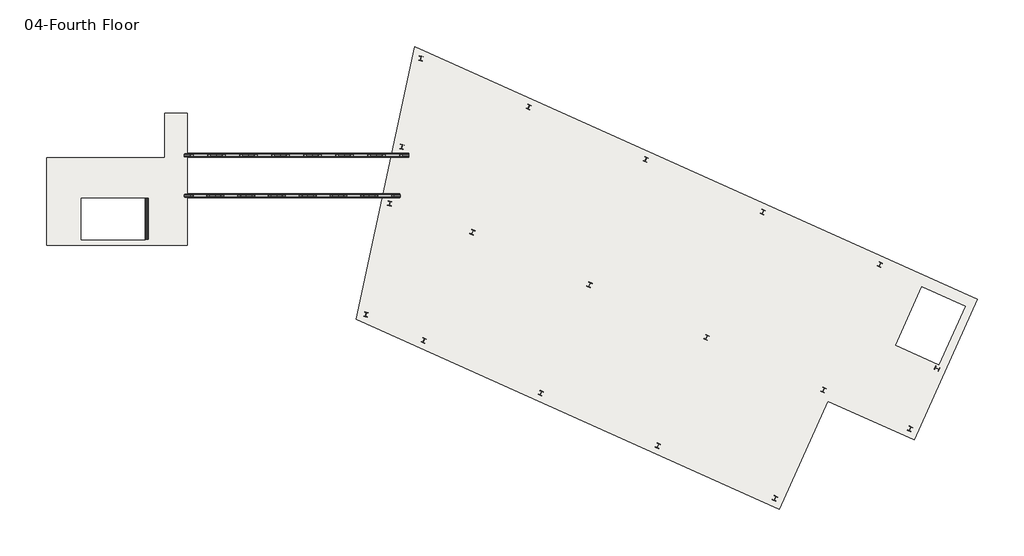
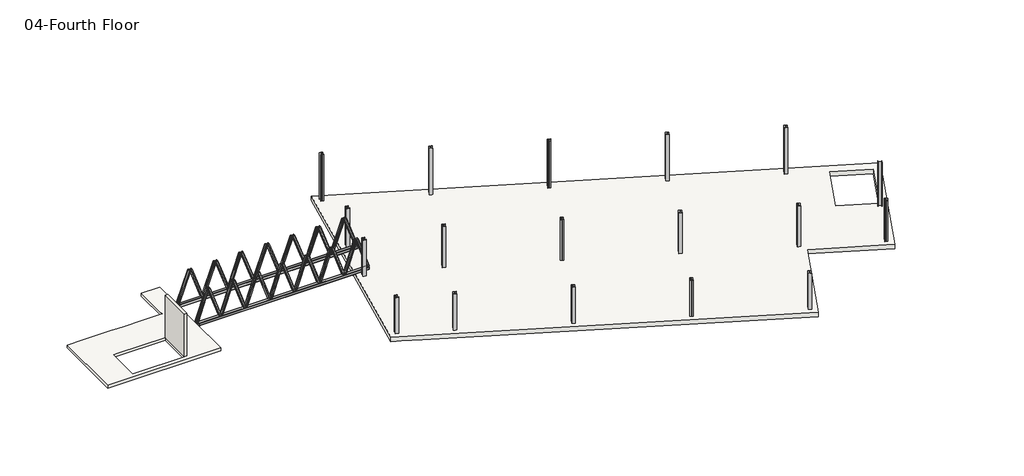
# One storey: 30 beams, 18 columns, 2 slabs, 1 wall.
"""IFC4 building model written with IfcOpenShell, lengths in millimetres."""

from ifc_helpers import new_model, si_unit, frame, origin, place, context, project, spatial, polyline, outline, extrude, faceted_brep, transform, mapped, element, save
from components import hss_square_hss6x6x1_2_76161288, hss_square_hss6x6x1_2_22740da5, hss_square_hss6x6x1_2_1b88db30, hss_square_hss6x6x1_2_b0b0a80a, hss_square_hss6x6x1_2_a7cad767, hss_square_hss6x6x1_2_71d29ca0, hss_square_hss8x8x3_8_a07c3f43, hss_square_hss8x8x3_8_c1e108ad, w_shapes_column_w10x33_a9fcfa0c, w_shapes_column_w10x33_dd564183, w_shapes_column_w10x33_143f3a9e, w_shapes_column_w10x33_68d9858e, w_shapes_column_w10x33_19826069, w_shapes_column_w10x33_0502d7ff, w_shapes_column_w10x33_47bedb91, w_shapes_column_w10x33_6cbc947e

model = new_model("IFC4")

# Units and contexts
model_context = context("Model", 3, world=origin())
ifc_project = project(units=[si_unit("LENGTHUNIT", "METRE", prefix="MILLI")], contexts=[model_context])

# Site, building, storey
site = spatial("IfcSite", under=ifc_project)
building = spatial("IfcBuilding", under=site)
storey = spatial("IfcBuildingStorey", under=building, Name="04-Fourth Floor", Elevation=13411.2)

# Beams
placement = place(None, origin())
hss_square_hss6x6x1_2_shape = hss_square_hss6x6x1_2_76161288(model_context)
element("IfcBeam", 1, ObjectType="HSS Square : HSS6X6X1/2", at=placement, inside=storey, context=model_context, shape_type="MappedRepresentation", body=[
    mapped(hss_square_hss6x6x1_2_shape, transform((18517.5886483, -7505.7, 14732.0), x_axis=(0.32576532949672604, 0.0, 0.9454506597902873), y_axis=(0.0, -1.0, 0.0), z_axis=(0.9454506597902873, 0.0, -0.32576532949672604))),
])
hss_square_hss6x6x1_2_2_shape = hss_square_hss6x6x1_2_22740da5(model_context)
element("IfcBeam", 2, ObjectType="HSS Square : HSS6X6X1/2", at=placement, inside=storey, context=model_context, shape_type="MappedRepresentation", body=[
    mapped(hss_square_hss6x6x1_2_2_shape, transform((19357.765945, -7505.7, 14732.0), x_axis=(0.32576532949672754, 0.0, -0.9454506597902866), y_axis=(0.0, -1.0, 0.0), z_axis=(-0.9454506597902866, 0.0, -0.32576532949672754))),
])
element("IfcBeam", 3, ObjectType="HSS Square : HSS6X6X1/2", at=placement, inside=storey, context=model_context, shape_type="MappedRepresentation", body=[
    mapped(hss_square_hss6x6x1_2_2_shape, transform((20197.9432416, -7505.7, 14732.0), x_axis=(0.3257653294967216, 0.0, 0.9454506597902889), y_axis=(0.0, -1.0, 0.0), z_axis=(0.9454506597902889, 0.0, -0.3257653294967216))),
])
element("IfcBeam", 4, ObjectType="HSS Square : HSS6X6X1/2", at=placement, inside=storey, context=model_context, shape_type="MappedRepresentation", body=[
    mapped(hss_square_hss6x6x1_2_2_shape, transform((28599.7162079, -7505.7, 14732.0), x_axis=(0.3257653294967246, 0.0, 0.9454506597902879), y_axis=(0.0, -1.0, 0.0), z_axis=(0.9454506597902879, 0.0, -0.3257653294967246))),
])
element("IfcBeam", 5, ObjectType="HSS Square : HSS6X6X1/2", at=placement, inside=storey, context=model_context, shape_type="MappedRepresentation", body=[
    mapped(hss_square_hss6x6x1_2_2_shape, transform((27759.5389113, -7505.7, 14732.0), x_axis=(0.32576532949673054, 0.0, -0.9454506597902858), y_axis=(0.0, -1.0, 0.0), z_axis=(-0.9454506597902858, 0.0, -0.32576532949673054))),
])
element("IfcBeam", 6, ObjectType="HSS Square : HSS6X6X1/2", at=placement, inside=storey, context=model_context, shape_type="MappedRepresentation", body=[
    mapped(hss_square_hss6x6x1_2_2_shape, transform((26919.3616147, -7505.7, 14732.0), x_axis=(0.32576532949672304, 0.0, 0.9454506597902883), y_axis=(0.0, -1.0, 0.0), z_axis=(0.9454506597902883, 0.0, -0.32576532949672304))),
])
element("IfcBeam", 7, ObjectType="HSS Square : HSS6X6X1/2", at=placement, inside=storey, context=model_context, shape_type="MappedRepresentation", body=[
    mapped(hss_square_hss6x6x1_2_2_shape, transform((26079.184318, -7505.7, 14732.0), x_axis=(0.32576532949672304, 0.0, -0.9454506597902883), y_axis=(0.0, -1.0, 0.0), z_axis=(-0.9454506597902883, 0.0, -0.32576532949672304))),
])
element("IfcBeam", 8, ObjectType="HSS Square : HSS6X6X1/2", at=placement, inside=storey, context=model_context, shape_type="MappedRepresentation", body=[
    mapped(hss_square_hss6x6x1_2_2_shape, transform((21038.1205382, -7505.7, 14732.0), x_axis=(0.3257653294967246, 0.0, -0.9454506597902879), y_axis=(0.0, -1.0, 0.0), z_axis=(-0.9454506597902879, 0.0, -0.3257653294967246))),
])
element("IfcBeam", 9, ObjectType="HSS Square : HSS6X6X1/2", at=placement, inside=storey, context=model_context, shape_type="MappedRepresentation", body=[
    mapped(hss_square_hss6x6x1_2_2_shape, transform((21878.2978349, -7505.7, 14732.0), x_axis=(0.32576532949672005, 0.0, 0.9454506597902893), y_axis=(0.0, -1.0, 0.0), z_axis=(0.9454506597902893, 0.0, -0.32576532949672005))),
])
element("IfcBeam", 10, ObjectType="HSS Square : HSS6X6X1/2", at=placement, inside=storey, context=model_context, shape_type="MappedRepresentation", body=[
    mapped(hss_square_hss6x6x1_2_2_shape, transform((22718.4751315, -7505.7, 14732.0), x_axis=(0.3257653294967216, 0.0, -0.9454506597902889), y_axis=(0.0, -1.0, 0.0), z_axis=(-0.9454506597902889, 0.0, -0.3257653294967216))),
])
element("IfcBeam", 11, ObjectType="HSS Square : HSS6X6X1/2", at=placement, inside=storey, context=model_context, shape_type="MappedRepresentation", body=[
    mapped(hss_square_hss6x6x1_2_2_shape, transform((23558.6524281, -7505.7, 14732.0), x_axis=(0.325765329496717, 0.0, 0.9454506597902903), y_axis=(0.0, -1.0, 0.0), z_axis=(0.9454506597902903, 0.0, -0.325765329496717))),
])
element("IfcBeam", 12, ObjectType="HSS Square : HSS6X6X1/2", at=placement, inside=storey, context=model_context, shape_type="MappedRepresentation", body=[
    mapped(hss_square_hss6x6x1_2_2_shape, transform((24398.8297248, -7505.7, 14732.0), x_axis=(0.32576532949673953, 0.0, -0.9454506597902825), y_axis=(0.0, -1.0, 0.0), z_axis=(-0.9454506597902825, 0.0, -0.32576532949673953))),
])
element("IfcBeam", 13, ObjectType="HSS Square : HSS6X6X1/2", at=placement, inside=storey, context=model_context, shape_type="MappedRepresentation", body=[
    mapped(hss_square_hss6x6x1_2_2_shape, transform((25239.0070214, -7505.7, 14732.0), x_axis=(0.32576532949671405, 0.0, 0.9454506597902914), y_axis=(0.0, -1.0, 0.0), z_axis=(0.9454506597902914, 0.0, -0.32576532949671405))),
])
hss_square_hss6x6x1_2_3_shape = hss_square_hss6x6x1_2_1b88db30(model_context)
element("IfcBeam", 14, ObjectType="HSS Square : HSS6X6X1/2", at=placement, inside=storey, context=model_context, shape_type="MappedRepresentation", body=[
    mapped(hss_square_hss6x6x1_2_3_shape, transform((29439.8935046, -7505.7, 14732.0), x_axis=(0.32576532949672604, 0.0, -0.9454506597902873), y_axis=(0.0, -1.0, 0.0), z_axis=(-0.9454506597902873, 0.0, -0.32576532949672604))),
])
hss_square_hss6x6x1_2_4_shape = hss_square_hss6x6x1_2_b0b0a80a(model_context)
element("IfcBeam", 15, ObjectType="HSS Square : HSS6X6X1/2", at=placement, inside=storey, context=model_context, shape_type="MappedRepresentation", body=[
    mapped(hss_square_hss6x6x1_2_4_shape, transform((18534.500383, -5295.9, 14732.0), x_axis=(0.3374125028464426, 0.0, 0.9413568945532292), y_axis=(0.0, -1.0, 0.0), z_axis=(0.9413568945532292, 0.0, -0.3374125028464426))),
])
hss_square_hss6x6x1_2_5_shape = hss_square_hss6x6x1_2_a7cad767(model_context)
element("IfcBeam", 16, ObjectType="HSS Square : HSS6X6X1/2", at=placement, inside=storey, context=model_context, shape_type="MappedRepresentation", body=[
    mapped(hss_square_hss6x6x1_2_5_shape, transform((19408.501149, -5295.9, 14732.0), x_axis=(0.3374125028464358, 0.0, -0.9413568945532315), y_axis=(0.0, -1.0, 0.0), z_axis=(-0.9413568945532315, 0.0, -0.3374125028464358))),
])
element("IfcBeam", 17, ObjectType="HSS Square : HSS6X6X1/2", at=placement, inside=storey, context=model_context, shape_type="MappedRepresentation", body=[
    mapped(hss_square_hss6x6x1_2_5_shape, transform((20282.5019151, -5295.9, 14732.0), x_axis=(0.3374125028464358, 0.0, 0.9413568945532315), y_axis=(0.0, -1.0, 0.0), z_axis=(0.9413568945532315, 0.0, -0.3374125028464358))),
])
element("IfcBeam", 18, ObjectType="HSS Square : HSS6X6X1/2", at=placement, inside=storey, context=model_context, shape_type="MappedRepresentation", body=[
    mapped(hss_square_hss6x6x1_2_5_shape, transform((29022.5095753, -5295.9, 14732.0), x_axis=(0.3374125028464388, 0.0, 0.9413568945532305), y_axis=(0.0, -1.0, 0.0), z_axis=(0.9413568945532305, 0.0, -0.3374125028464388))),
])
element("IfcBeam", 19, ObjectType="HSS Square : HSS6X6X1/2", at=placement, inside=storey, context=model_context, shape_type="MappedRepresentation", body=[
    mapped(hss_square_hss6x6x1_2_5_shape, transform((28148.5088093, -5295.9, 14732.0), x_axis=(0.33741250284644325, 0.0, -0.9413568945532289), y_axis=(0.0, -1.0, 0.0), z_axis=(-0.9413568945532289, 0.0, -0.33741250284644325))),
])
element("IfcBeam", 20, ObjectType="HSS Square : HSS6X6X1/2", at=placement, inside=storey, context=model_context, shape_type="MappedRepresentation", body=[
    mapped(hss_square_hss6x6x1_2_5_shape, transform((27274.5080432, -5295.9, 14732.0), x_axis=(0.3374125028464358, 0.0, 0.9413568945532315), y_axis=(0.0, -1.0, 0.0), z_axis=(0.9413568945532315, 0.0, -0.3374125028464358))),
])
element("IfcBeam", 21, ObjectType="HSS Square : HSS6X6X1/2", at=placement, inside=storey, context=model_context, shape_type="MappedRepresentation", body=[
    mapped(hss_square_hss6x6x1_2_5_shape, transform((26400.5072772, -5295.9, 14732.0), x_axis=(0.3374125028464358, 0.0, -0.9413568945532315), y_axis=(0.0, -1.0, 0.0), z_axis=(-0.9413568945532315, 0.0, -0.3374125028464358))),
])
element("IfcBeam", 22, ObjectType="HSS Square : HSS6X6X1/2", at=placement, inside=storey, context=model_context, shape_type="MappedRepresentation", body=[
    mapped(hss_square_hss6x6x1_2_5_shape, transform((21156.5026811, -5295.9, 14732.0), x_axis=(0.3374125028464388, 0.0, -0.9413568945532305), y_axis=(0.0, -1.0, 0.0), z_axis=(-0.9413568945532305, 0.0, -0.3374125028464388))),
])
element("IfcBeam", 23, ObjectType="HSS Square : HSS6X6X1/2", at=placement, inside=storey, context=model_context, shape_type="MappedRepresentation", body=[
    mapped(hss_square_hss6x6x1_2_5_shape, transform((22030.5034471, -5295.9, 14732.0), x_axis=(0.3374125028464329, 0.0, 0.9413568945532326), y_axis=(0.0, -1.0, 0.0), z_axis=(0.9413568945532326, 0.0, -0.3374125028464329))),
])
element("IfcBeam", 24, ObjectType="HSS Square : HSS6X6X1/2", at=placement, inside=storey, context=model_context, shape_type="MappedRepresentation", body=[
    mapped(hss_square_hss6x6x1_2_5_shape, transform((22904.5042131, -5295.9, 14732.0), x_axis=(0.3374125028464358, 0.0, -0.9413568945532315), y_axis=(0.0, -1.0, 0.0), z_axis=(-0.9413568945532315, 0.0, -0.3374125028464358))),
])
element("IfcBeam", 25, ObjectType="HSS Square : HSS6X6X1/2", at=placement, inside=storey, context=model_context, shape_type="MappedRepresentation", body=[
    mapped(hss_square_hss6x6x1_2_5_shape, transform((23778.5049792, -5295.9, 14732.0), x_axis=(0.33741250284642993, 0.0, 0.9413568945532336), y_axis=(0.0, -1.0, 0.0), z_axis=(0.9413568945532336, 0.0, -0.33741250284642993))),
])
element("IfcBeam", 26, ObjectType="HSS Square : HSS6X6X1/2", at=placement, inside=storey, context=model_context, shape_type="MappedRepresentation", body=[
    mapped(hss_square_hss6x6x1_2_5_shape, transform((24652.5057452, -5295.9, 14732.0), x_axis=(0.33741250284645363, 0.0, -0.9413568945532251), y_axis=(0.0, -1.0, 0.0), z_axis=(-0.9413568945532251, 0.0, -0.33741250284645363))),
])
element("IfcBeam", 27, ObjectType="HSS Square : HSS6X6X1/2", at=placement, inside=storey, context=model_context, shape_type="MappedRepresentation", body=[
    mapped(hss_square_hss6x6x1_2_5_shape, transform((25526.5065112, -5295.9, 14732.0), x_axis=(0.337412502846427, 0.0, 0.9413568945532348), y_axis=(0.0, -1.0, 0.0), z_axis=(0.9413568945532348, 0.0, -0.337412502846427))),
])
hss_square_hss6x6x1_2_6_shape = hss_square_hss6x6x1_2_71d29ca0(model_context)
element("IfcBeam", 28, ObjectType="HSS Square : HSS6X6X1/2", at=placement, inside=storey, context=model_context, shape_type="MappedRepresentation", body=[
    mapped(hss_square_hss6x6x1_2_6_shape, transform((29896.5103413, -5295.9, 14732.0), x_axis=(0.3374125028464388, 0.0, -0.9413568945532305), y_axis=(0.0, -1.0, 0.0), z_axis=(-0.9413568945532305, 0.0, -0.3374125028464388))),
])
hss_square_hss8x8x3_8_shape = hss_square_hss8x8x3_8_a07c3f43(model_context)
element("IfcBeam", 29, ObjectType="HSS Square : HSS8X8X3/8", at=placement, inside=storey, context=model_context, shape_type="MappedRepresentation", body=[
    mapped(hss_square_hss8x8x3_8_shape, transform((23978.7410764, -7505.7, 13512.8), x_axis=(1.0, 0.0, 0.0), y_axis=(0.0, 1.0, 0.0), z_axis=(0.0, 0.0, 1.0))),
])
hss_square_hss8x8x3_8_2_shape = hss_square_hss8x8x3_8_c1e108ad(model_context)
element("IfcBeam", 30, ObjectType="HSS Square : HSS8X8X3/8", at=placement, inside=storey, context=model_context, shape_type="MappedRepresentation", body=[
    mapped(hss_square_hss8x8x3_8_2_shape, transform((24215.5053622, -5295.9, 13512.8), x_axis=(1.0, 0.0, 0.0), y_axis=(0.0, 1.0, 0.0), z_axis=(0.0, 0.0, 1.0))),
])

# Columns
w_shapes_column_w10x33_shape = w_shapes_column_w10x33_a9fcfa0c(model_context)
element("IfcColumn", 31, ObjectType="W Shapes-Column : W10X33", at=placement, inside=storey, context=model_context, shape_type="MappedRepresentation", body=[
    mapped(w_shapes_column_w10x33_shape, transform((53006.5219449, -18113.1117073, 0.0), x_axis=(-0.9121951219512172, 0.4097560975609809, 0.0), y_axis=(-0.4097560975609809, -0.9121951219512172, 0.0), z_axis=(0.0, 0.0, 1.0))),
])
element("IfcColumn", 32, ObjectType="W Shapes-Column : W10X33", at=placement, inside=storey, context=model_context, shape_type="MappedRepresentation", body=[
    mapped(w_shapes_column_w10x33_shape, transform((57733.1521888, -20236.3039024, 0.0), x_axis=(-0.9121951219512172, 0.4097560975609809, 0.0), y_axis=(-0.4097560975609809, -0.9121951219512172, 0.0), z_axis=(0.0, 0.0, 1.0))),
])
element("IfcColumn", 33, ObjectType="W Shapes-Column : W10X33", at=placement, inside=storey, context=model_context, shape_type="MappedRepresentation", body=[
    mapped(w_shapes_column_w10x33_shape, transform((46611.669262, -15240.557561, 0.0), x_axis=(-0.9121951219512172, 0.4097560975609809, 0.0), y_axis=(-0.4097560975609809, -0.9121951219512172, 0.0), z_axis=(0.0, 0.0, 1.0))),
])
element("IfcColumn", 34, ObjectType="W Shapes-Column : W10X33", at=placement, inside=storey, context=model_context, shape_type="MappedRepresentation", body=[
    mapped(w_shapes_column_w10x33_shape, transform((40216.816579, -12368.0034146, 0.0), x_axis=(-0.9121951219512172, 0.4097560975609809, 0.0), y_axis=(-0.4097560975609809, -0.9121951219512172, 0.0), z_axis=(0.0, 0.0, 1.0))),
])
element("IfcColumn", 35, ObjectType="W Shapes-Column : W10X33", at=placement, inside=storey, context=model_context, shape_type="MappedRepresentation", body=[
    mapped(w_shapes_column_w10x33_shape, transform((33821.9638961, -9495.4492683, 0.0), x_axis=(-0.9121951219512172, 0.4097560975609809, 0.0), y_axis=(-0.4097560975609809, -0.9121951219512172, 0.0), z_axis=(0.0, 0.0, 1.0))),
])
w_shapes_column_w10x33_2_shape = w_shapes_column_w10x33_dd564183(model_context)
element("IfcColumn", 36, ObjectType="W Shapes-Column : W10X33", at=placement, inside=storey, context=model_context, shape_type="MappedRepresentation", body=[
    mapped(w_shapes_column_w10x33_2_shape, transform((36897.4702376, -2648.7863415, 0.0), x_axis=(-0.9121951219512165, 0.4097560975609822, 0.0), y_axis=(-0.4097560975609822, -0.9121951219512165, 0.0), z_axis=(0.0, 0.0, 1.0))),
])
element("IfcColumn", 37, ObjectType="W Shapes-Column : W10X33", at=placement, inside=storey, context=model_context, shape_type="MappedRepresentation", body=[
    mapped(w_shapes_column_w10x33_2_shape, transform((43292.3229205, -5521.3404878, 0.0), x_axis=(-0.9121951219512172, 0.40975609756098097, 0.0), y_axis=(-0.40975609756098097, -0.9121951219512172, 0.0), z_axis=(0.0, 0.0, 1.0))),
])
element("IfcColumn", 38, ObjectType="W Shapes-Column : W10X33", at=placement, inside=storey, context=model_context, shape_type="MappedRepresentation", body=[
    mapped(w_shapes_column_w10x33_2_shape, transform((49687.1756034, -8393.8946341, 0.0), x_axis=(-0.9121951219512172, 0.4097560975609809, 0.0), y_axis=(-0.4097560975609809, -0.9121951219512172, 0.0), z_axis=(0.0, 0.0, 1.0))),
])
element("IfcColumn", 39, ObjectType="W Shapes-Column : W10X33", at=placement, inside=storey, context=model_context, shape_type="MappedRepresentation", body=[
    mapped(w_shapes_column_w10x33_2_shape, transform((56082.0282864, -11266.4487805, 0.0), x_axis=(-0.9121951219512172, 0.4097560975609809, 0.0), y_axis=(-0.4097560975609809, -0.9121951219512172, 0.0), z_axis=(0.0, 0.0, 1.0))),
])
w_shapes_column_w10x33_3_shape = w_shapes_column_w10x33_143f3a9e(model_context)
element("IfcColumn", 40, ObjectType="W Shapes-Column : W10X33", at=placement, inside=storey, context=model_context, shape_type="MappedRepresentation", body=[
    mapped(w_shapes_column_w10x33_3_shape, transform((31162.7697498, -15415.3219512, 0.0), x_axis=(-0.9121951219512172, 0.409756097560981, 0.0), y_axis=(-0.409756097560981, -0.9121951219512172, 0.0), z_axis=(0.0, 0.0, 1.0))),
])
element("IfcColumn", 41, ObjectType="W Shapes-Column : W10X33", at=placement, inside=storey, context=model_context, shape_type="MappedRepresentation", body=[
    mapped(w_shapes_column_w10x33_3_shape, transform((37557.6224327, -18287.8760976, 0.0), x_axis=(-0.9121951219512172, 0.4097560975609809, 0.0), y_axis=(-0.4097560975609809, -0.9121951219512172, 0.0), z_axis=(0.0, 0.0, 1.0))),
])
element("IfcColumn", 42, ObjectType="W Shapes-Column : W10X33", at=placement, inside=storey, context=model_context, shape_type="MappedRepresentation", body=[
    mapped(w_shapes_column_w10x33_3_shape, transform((43952.4751156, -21160.4302439, 0.0), x_axis=(-0.9121951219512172, 0.4097560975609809, 0.0), y_axis=(-0.4097560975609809, -0.9121951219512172, 0.0), z_axis=(0.0, 0.0, 1.0))),
])
element("IfcColumn", 43, ObjectType="W Shapes-Column : W10X33", at=placement, inside=storey, context=model_context, shape_type="MappedRepresentation", body=[
    mapped(w_shapes_column_w10x33_3_shape, transform((50347.3277985, -24032.9843902, 0.0), x_axis=(-0.9121951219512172, 0.4097560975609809, 0.0), y_axis=(-0.4097560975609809, -0.9121951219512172, 0.0), z_axis=(0.0, 0.0, 1.0))),
])
w_shapes_column_w10x33_4_shape = w_shapes_column_w10x33_68d9858e(model_context)
element("IfcColumn", 44, ObjectType="W Shapes-Column : W10X33", at=placement, inside=storey, context=model_context, shape_type="MappedRepresentation", body=[
    mapped(w_shapes_column_w10x33_4_shape, transform((28001.753025, -13995.4, 0.0), x_axis=(0.9778024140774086, -0.2095290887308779, 0.0), y_axis=(0.2095290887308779, 0.9778024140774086, 0.0), z_axis=(0.0, 0.0, 1.0))),
])
w_shapes_column_w10x33_5_shape = w_shapes_column_w10x33_19826069(model_context)
element("IfcColumn", 45, ObjectType="W Shapes-Column : W10X33", at=placement, inside=storey, context=model_context, shape_type="MappedRepresentation", body=[
    mapped(w_shapes_column_w10x33_5_shape, transform((31000.7673107, 0.0, 0.0), x_axis=(0.9778024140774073, -0.20952908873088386, 0.0), y_axis=(0.20952908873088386, 0.9778024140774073, 0.0), z_axis=(0.0, 0.0, 1.0))),
])
w_shapes_column_w10x33_6_shape = w_shapes_column_w10x33_0502d7ff(model_context)
element("IfcColumn", 46, ObjectType="W Shapes-Column : W10X33", at=placement, inside=storey, context=model_context, shape_type="MappedRepresentation", body=[
    mapped(w_shapes_column_w10x33_6_shape, transform((59211.6282063, -16944.934673, 0.0), x_axis=(-0.4097560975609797, -0.9121951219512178, 0.0), y_axis=(0.9121951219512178, -0.4097560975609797, 0.0), z_axis=(0.0, 0.0, 1.0))),
])
w_shapes_column_w10x33_7_shape = w_shapes_column_w10x33_47bedb91(model_context)
element("IfcColumn", 47, ObjectType="W Shapes-Column : W10X33", at=placement, inside=storey, context=model_context, shape_type="MappedRepresentation", body=[
    mapped(w_shapes_column_w10x33_7_shape, transform((29301.9671438, -7927.7341122, 0.0), x_axis=(0.9778024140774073, -0.20952908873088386, 0.0), y_axis=(0.20952908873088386, 0.9778024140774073, 0.0), z_axis=(0.0, 0.0, 1.0))),
])
w_shapes_column_w10x33_8_shape = w_shapes_column_w10x33_6cbc947e(model_context)
element("IfcColumn", 48, ObjectType="W Shapes-Column : W10X33", at=placement, inside=storey, context=model_context, shape_type="MappedRepresentation", body=[
    mapped(w_shapes_column_w10x33_8_shape, transform((29964.887162, -4834.1073607, 0.0), x_axis=(0.9778024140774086, -0.20952908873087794, 0.0), y_axis=(0.20952908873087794, 0.9778024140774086, 0.0), z_axis=(0.0, 0.0, 1.0))),
])

# Slabs
element("IfcSlab", 49, ObjectType="RC Slab 12\"", at=placement, inside=storey, context=model_context, shape_type="Brep", body=[
    faceted_brep([(61413.0546278, -13159.9258537, 13106.4), (57962.8673107, -20840.7, 13106.4), (53236.2370668, -18717.5078049, 13106.4), (50577.0429205, -24637.3804878, 13106.4), (29168.1882864, -15020.5687805, 13106.4), (28045.956063, -14516.4644662, 13106.4), (27761.6071299, -14388.7355338, 13106.4), (27477.2581969, -14261.0066013, 13106.4), (30672.2153397, 648.7933987, 13106.4), (30956.5642728, 521.0644662, 13106.4), (31240.9132058, 393.3355338, 13106.4), (32422.724802, -137.5317073, 13106.4), (59309.9346278, -16726.0858537, 13106.4), (60746.211701, -13528.6595122, 13106.4), (58382.896579, -12467.0634146, 13106.4), (56946.6195059, -15664.4897561, 13106.4), (57962.8673107, -20840.7, 13411.2), (61413.0546278, -13159.9258537, 13411.2), (30672.2153397, 648.7933987, 13411.2), (27477.2581969, -14261.0066013, 13411.2), (50577.0429205, -24637.3804878, 13411.2), (53236.2370668, -18717.5078049, 13411.2), (60746.211701, -13528.6595122, 13411.2), (59309.9346278, -16726.0858537, 13411.2), (56946.6195059, -15664.4897561, 13411.2), (58382.896579, -12467.0634146, 13411.2)], [[[0, 1, 2, 3, 4, 5, 6, 7, 8, 9, 10, 11], [12, 13, 14, 15]], [[16, 17, 18, 19, 20, 21], [22, 23, 24, 25]], [[1, 0, 17, 16]], [[2, 1, 16, 21]], [[3, 2, 21, 20]], [[7, 6, 5, 4, 3, 20, 19]], [[8, 7, 19, 18]], [[0, 11, 10, 9, 8, 18, 17]], [[12, 23, 22, 13]], [[13, 22, 25, 14]], [[14, 25, 24, 15]], [[23, 12, 15, 24]]]),
])
element("IfcSlab", 50, ObjectType="RC Slab 8\"", at=placement, inside=storey, context=model_context, shape_type="Brep", body=[
    faceted_brep([(18249.9, -2984.5, 13208.0), (18249.9, -3289.3, 13208.0), (18249.9, -9893.3, 13208.0), (18249.9, -10198.1, 13208.0), (10553.7, -10198.1, 13208.0), (10553.7, -9893.3, 13208.0), (10553.7, -5422.9, 13208.0), (10858.5, -5422.9, 13208.0), (17005.3, -5422.9, 13208.0), (17005.3, -5168.9, 13208.0), (17005.3, -3289.3, 13208.0), (17005.3, -2984.5, 13208.0), (15951.2, -7633.3081651, 13208.0), (12446.0, -7633.3081651, 13208.0), (12446.0, -9893.3, 13208.0), (15951.2, -9893.3, 13208.0), (18249.9, -10198.1, 13411.2), (18249.9, -9893.3, 13411.2), (18249.9, -7378.7, 13411.2), (18249.9, -5422.9, 13411.2), (18249.9, -3289.3, 13411.2), (18249.9, -2984.5, 13411.2), (17005.3, -2984.5, 13411.2), (17005.3, -3289.3, 13411.2), (17005.3, -5168.9, 13411.2), (17005.3, -5422.9, 13411.2), (16522.7, -5422.9, 13411.2), (15608.3, -5422.9, 13411.2), (14389.1, -5422.9, 13411.2), (13474.7, -5422.9, 13411.2), (12242.8, -5422.9, 13411.2), (11328.4, -5422.9, 13411.2), (10858.5, -5422.9, 13411.2), (10553.7, -5422.9, 13411.2), (10553.7, -9893.3, 13411.2), (10553.7, -10198.1, 13411.2), (12446.0, -7633.3081651, 13411.2), (12731.75, -7633.3081651, 13411.2), (15951.2, -7633.3081651, 13411.2), (15951.2, -9893.3, 13411.2), (12446.0, -9893.3, 13411.2), (12446.0, -8700.1081651, 13411.2), (12446.0, -7633.3081651, 13247.6056471)], [[[0, 1, 2, 3, 4, 5, 6, 7, 8, 9, 10, 11], [12, 13, 14, 15]], [[16, 17, 18, 19, 20, 21, 22, 23, 24, 25, 26, 27, 28, 29, 30, 31, 32, 33, 34, 35], [36, 37, 38, 39, 40, 41]], [[3, 2, 1, 0, 21, 20, 19, 18, 17, 16]], [[4, 3, 16, 35]], [[4, 35, 34, 33, 6, 5]], [[21, 0, 11, 22]], [[25, 8, 7, 6, 33, 32, 31, 30, 29, 28, 27, 26]], [[8, 25, 24, 23, 22, 11, 10, 9]], [[12, 38, 37, 36, 42, 13]], [[13, 42, 36, 41, 40, 14]], [[14, 40, 39, 15]], [[38, 12, 15, 39]]]),
])

# Wall
element("IfcWall", 51, ObjectType="6\" Blockwork with render", at=placement, inside=storey, context=model_context, shape_type="SweptSolid", body=[
    extrude(outline(polyline([(16103.6, -7632.7), (16103.6, -9893.3), (15951.2, -9893.3), (15951.2, -7632.7), (16103.6, -7632.7)])), frame((0.0, 0.0, 13411.2), z_axis=(0.0, 0.0, 1.0), x_axis=(1.0, 0.0, 0.0)), (0.0, 0.0, 1.0), 3048.0),
])

save(model, "model.ifc")
